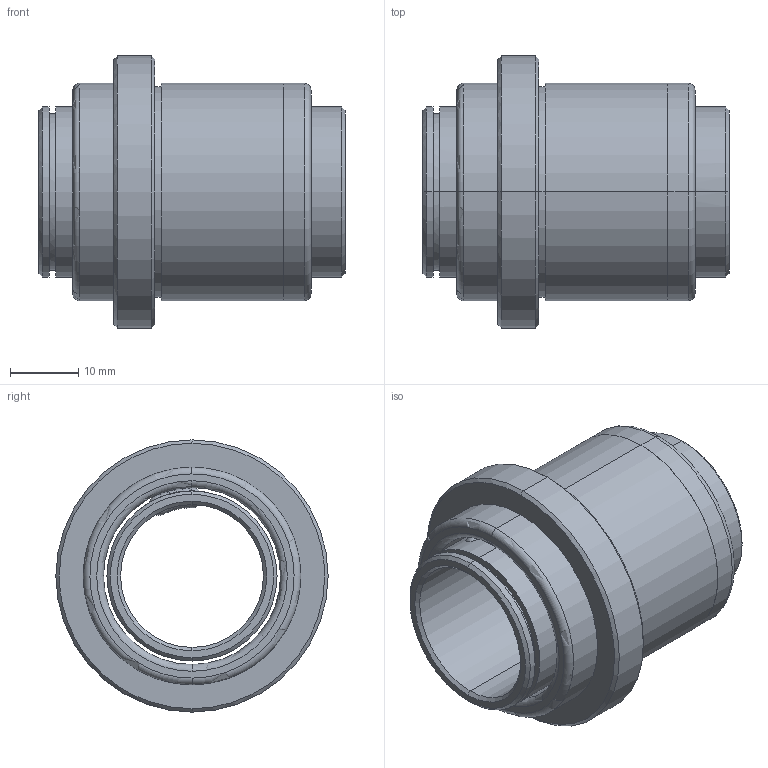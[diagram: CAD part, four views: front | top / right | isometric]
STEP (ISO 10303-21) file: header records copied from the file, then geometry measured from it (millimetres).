
FILE_DESCRIPTION(('CATIA V5 STEP Exchange'),'2;1');
FILE_NAME('C:\Users\Utente\Desktop\IO LAVORO\3D X SITO CF\X SITO\732\732-20.stp','2021-01-10T19:31:55+00:00',('none'),('none'),'CATIA Version 5 Release 20 GA (IN-10)','CATIA V5 STEP AP203','none');
FILE_SCHEMA(('CONFIG_CONTROL_DESIGN'));
Length unit declared in the file: millimetre
Products named in the file (1): 732-20
Assembly tree (2 placements, depth 2):
  732-20
    #58
    #1297
Bounding box: 45 x 40 x 40 mm (x, y, z)
Volume: 18515.8 mm3; surface area: 14705.6 mm2
Topology: 2 solids, 2 shells, 74 faces, 216 edges, 160 vertices
Faces by surface type: sphere 24, cylinder 20, cone 12, plane 10, torus 8
Entity records: 3041 total; most frequent: CARTESIAN_POINT 1058, ORIENTED_EDGE 432, DIRECTION 312, EDGE_CURVE 216, AXIS2_PLACEMENT_3D 198, VERTEX_POINT 160, CIRCLE 120, EDGE_LOOP 92
